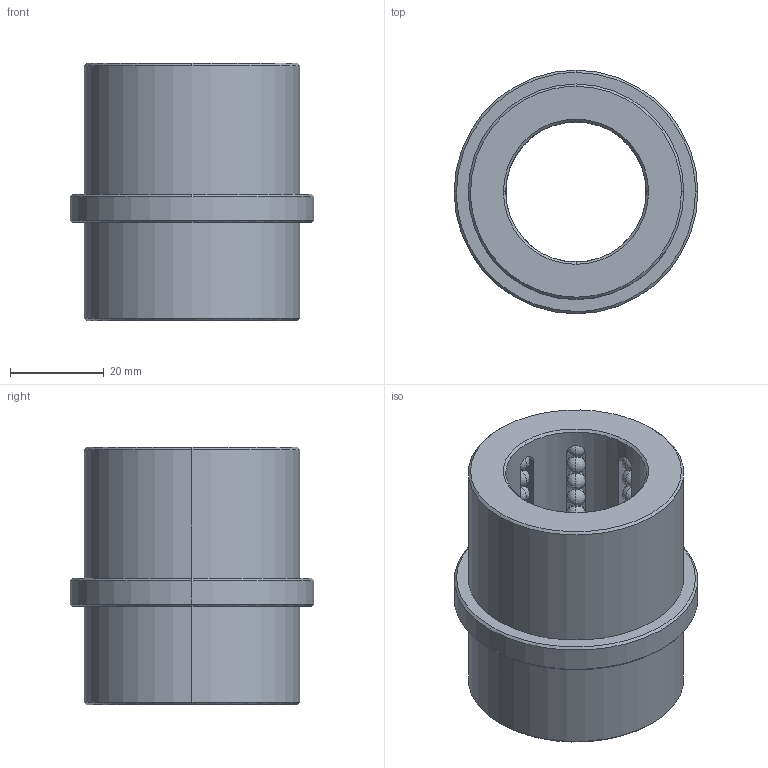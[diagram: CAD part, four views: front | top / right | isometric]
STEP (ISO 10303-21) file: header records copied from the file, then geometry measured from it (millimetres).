
FILE_DESCRIPTION(('CATIA V5 STEP Exchange'),'2;1');
FILE_NAME('C:\Users\Raffaele\Desktop\3D BOLEX\3D FILES CF BOLEX\5-BUSH REF 812\B8123055.stp','2019-06-20T11:56:49+00:00',('none'),('none'),'CATIA Version 5 Release 20 GA (IN-10)','CATIA V5 STEP AP203','none');
FILE_SCHEMA(('CONFIG_CONTROL_DESIGN'));
Length unit declared in the file: millimetre
Products named in the file (1): B8123055
Bounding box: 52 x 52 x 55 mm (x, y, z)
Volume: 52460 mm3; surface area: 23364.4 mm2
Topology: 89 solids, 89 shells, 428 faces, 1242 edges, 296 vertices
Faces by surface type: sphere 352, plane 28, cylinder 24, cone 24
Entity records: 8503 total; most frequent: CARTESIAN_POINT 1813, DIRECTION 1357, ORIENTED_EDGE 1076, AXIS2_PLACEMENT_3D 831, EDGE_CURVE 538, EDGE_LOOP 438, ADVANCED_FACE 428, FACE_OUTER_BOUND 428
